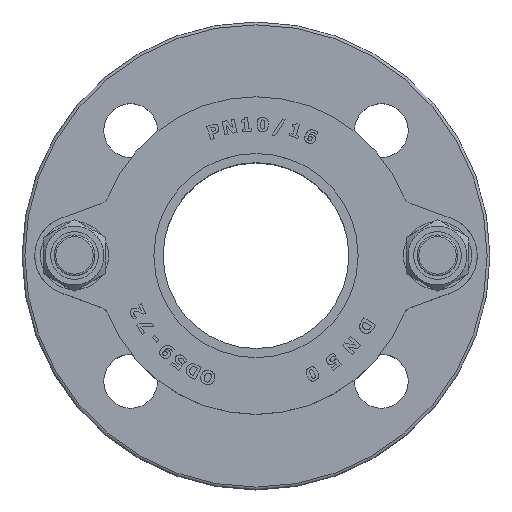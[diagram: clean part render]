
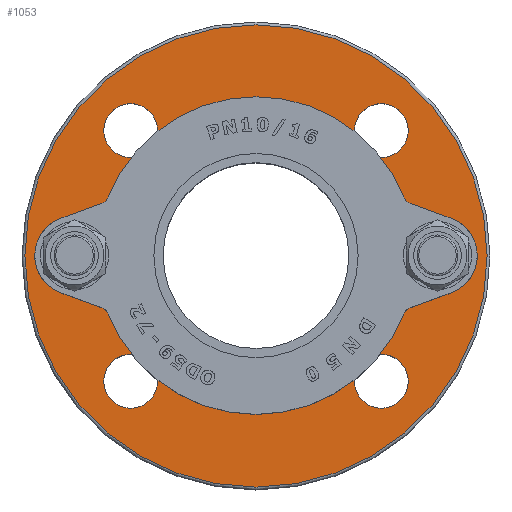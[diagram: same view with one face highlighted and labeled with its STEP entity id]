
A CAD part, top view. The second image highlights one B-rep face of the part: STEP entity #1053.
In plain terms, the highlighted planar face has unit normal (0, 0, 1).
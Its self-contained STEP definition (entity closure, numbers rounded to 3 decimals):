
#1053=ADVANCED_FACE('',(#5167,#5169,#5171,#5173,#5175,#5177,#5179,#5181),#5183,.T.);
#5167=FACE_BOUND('',#5168,.T.);
#5168=EDGE_LOOP('',(#10022));
#5169=FACE_BOUND('',#5170,.T.);
#5170=EDGE_LOOP('',(#10023));
#5171=FACE_BOUND('',#5172,.T.);
#5172=EDGE_LOOP('',(#10024));
#5173=FACE_BOUND('',#5174,.T.);
#5174=EDGE_LOOP('',(#10025));
#5175=FACE_BOUND('',#5176,.T.);
#5176=EDGE_LOOP('',(#10026));
#5177=FACE_BOUND('',#5178,.T.);
#5178=EDGE_LOOP('',(#10027));
#5179=FACE_BOUND('',#5180,.T.);
#5180=EDGE_LOOP('',(#10028));
#5181=FACE_BOUND('',#5182,.T.);
#5182=EDGE_LOOP('',(#10029));
#5183=PLANE('',#5184);
#5184=AXIS2_PLACEMENT_3D('',#5185,#5186,#5187);
#5185=CARTESIAN_POINT('',(0.,0.,19.));
#5186=DIRECTION('',(0.,0.,1.));
#5187=DIRECTION('',(-1.,0.,0.));
#10022=ORIENTED_EDGE('',*,*,#13832,.T.);
#10023=ORIENTED_EDGE('',*,*,#13830,.T.);
#10024=ORIENTED_EDGE('',*,*,#13833,.T.);
#10025=ORIENTED_EDGE('',*,*,#13834,.T.);
#10026=ORIENTED_EDGE('',*,*,#13835,.T.);
#10027=ORIENTED_EDGE('',*,*,#13836,.T.);
#10028=ORIENTED_EDGE('',*,*,#13837,.T.);
#10029=ORIENTED_EDGE('',*,*,#13838,.T.);
#13830=EDGE_CURVE('',#15487,#15487,#15488,.T.);
#13832=EDGE_CURVE('',#15491,#15491,#15492,.T.);
#13833=EDGE_CURVE('',#15493,#15493,#15494,.F.);
#13834=EDGE_CURVE('',#15495,#15495,#15496,.F.);
#13835=EDGE_CURVE('',#15497,#15497,#15498,.T.);
#13836=EDGE_CURVE('',#15499,#15499,#15500,.T.);
#13837=EDGE_CURVE('',#15501,#15501,#15502,.T.);
#13838=EDGE_CURVE('',#15503,#15503,#15504,.T.);
#15487=VERTEX_POINT('',#20761);
#15488=CIRCLE('',#20762,41.);
#15491=VERTEX_POINT('',#20771);
#15492=CIRCLE('',#20772,81.5);
#15493=VERTEX_POINT('',#20776);
#15494=CIRCLE('',#20777,8.);
#15495=VERTEX_POINT('',#20781);
#15496=CIRCLE('',#20782,8.);
#15497=VERTEX_POINT('',#20786);
#15498=CIRCLE('',#20787,9.5);
#15499=VERTEX_POINT('',#20791);
#15500=CIRCLE('',#20792,9.5);
#15501=VERTEX_POINT('',#20796);
#15502=CIRCLE('',#20797,9.5);
#15503=VERTEX_POINT('',#20801);
#15504=CIRCLE('',#20802,9.5);
#20761=CARTESIAN_POINT('',(0.,41.,19.));
#20762=AXIS2_PLACEMENT_3D('',#20763,#20764,#20765);
#20763=CARTESIAN_POINT('',(0.,0.,19.));
#20764=DIRECTION('',(0.,0.,-1.));
#20765=DIRECTION('',(0.,1.,0.));
#20771=CARTESIAN_POINT('',(-81.5,0.,19.));
#20772=AXIS2_PLACEMENT_3D('',#20773,#20774,#20775);
#20773=CARTESIAN_POINT('',(0.,0.,19.));
#20774=DIRECTION('',(0.,0.,1.));
#20775=DIRECTION('',(-1.,0.,0.));
#20776=CARTESIAN_POINT('',(72.,0.,19.));
#20777=AXIS2_PLACEMENT_3D('',#20778,#20779,#20780);
#20778=CARTESIAN_POINT('',(64.,0.,19.));
#20779=DIRECTION('',(0.,0.,1.));
#20780=DIRECTION('',(1.,0.,0.));
#20781=CARTESIAN_POINT('',(-72.,0.,19.));
#20782=AXIS2_PLACEMENT_3D('',#20783,#20784,#20785);
#20783=CARTESIAN_POINT('',(-64.,0.,19.));
#20784=DIRECTION('',(0.,0.,1.));
#20785=DIRECTION('',(-1.,0.,0.));
#20786=CARTESIAN_POINT('',(-53.694,44.194,19.));
#20787=AXIS2_PLACEMENT_3D('',#20788,#20789,#20790);
#20788=CARTESIAN_POINT('',(-44.194,44.194,19.));
#20789=DIRECTION('',(0.,0.,-1.));
#20790=DIRECTION('',(-1.,0.,0.));
#20791=CARTESIAN_POINT('',(-44.194,-53.694,19.));
#20792=AXIS2_PLACEMENT_3D('',#20793,#20794,#20795);
#20793=CARTESIAN_POINT('',(-44.194,-44.194,19.));
#20794=DIRECTION('',(0.,0.,-1.));
#20795=DIRECTION('',(0.,-1.,0.));
#20796=CARTESIAN_POINT('',(44.194,53.694,19.));
#20797=AXIS2_PLACEMENT_3D('',#20798,#20799,#20800);
#20798=CARTESIAN_POINT('',(44.194,44.194,19.));
#20799=DIRECTION('',(0.,0.,-1.));
#20800=DIRECTION('',(0.,1.,0.));
#20801=CARTESIAN_POINT('',(53.694,-44.194,19.));
#20802=AXIS2_PLACEMENT_3D('',#20803,#20804,#20805);
#20803=CARTESIAN_POINT('',(44.194,-44.194,19.));
#20804=DIRECTION('',(0.,0.,-1.));
#20805=DIRECTION('',(1.,0.,0.));
